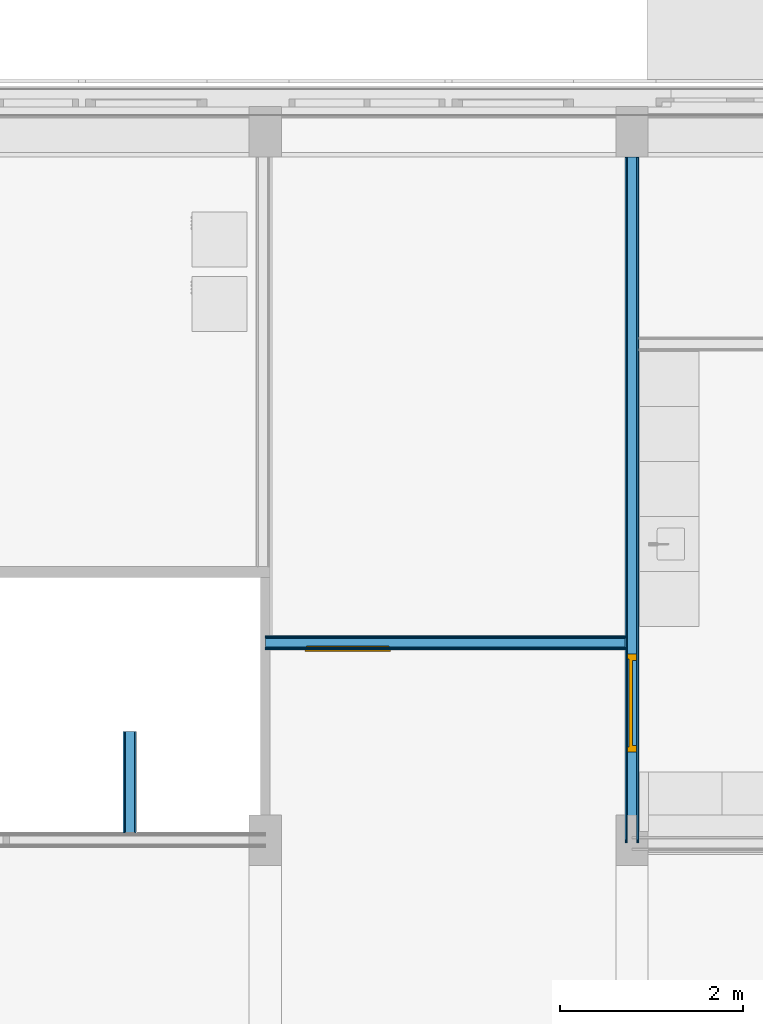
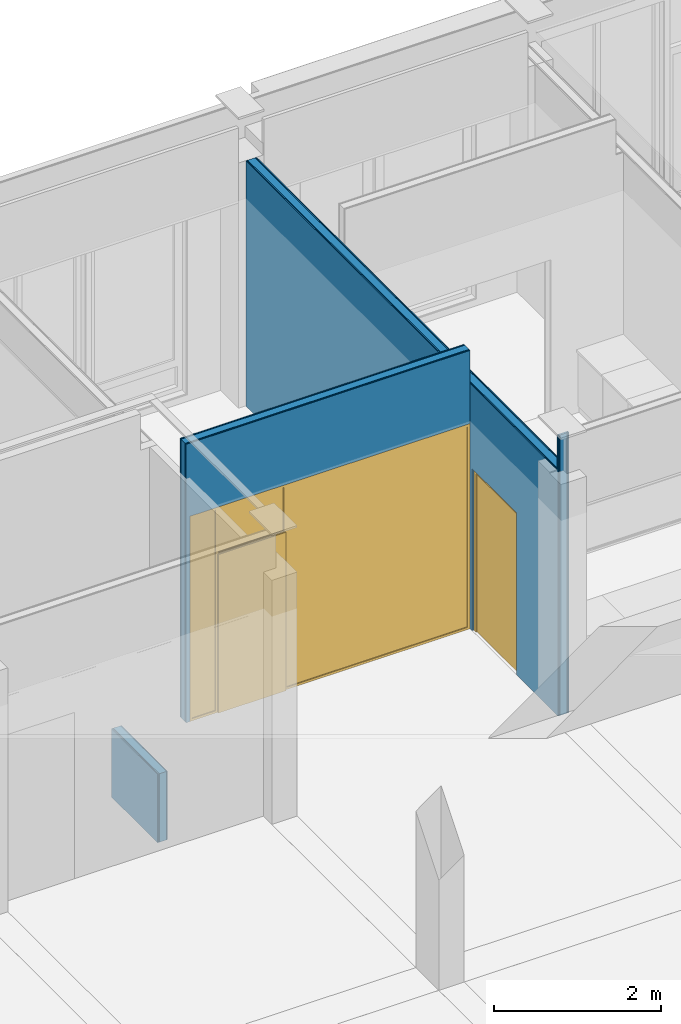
# One storey, part 68 of 109: 14 building element parts, 2 doors, 2 openings, 3 elements without a shape of their own.
"""IFC2X3 building model written with IfcOpenShell, lengths in millimetres."""

from ifc_helpers import new_model, entity, si_unit, converted_unit, derived_unit, money_unit, direction, frame, origin_with_axes, place, context, subcontext, project, spatial, open_shell, faceted_brep, surface_model, material, type_object, element, fill, aggregate, save


model = new_model("IFC2X3")

# Units and contexts
model_context = context("Model", 3, precision=0.01, world=origin_with_axes(), true_north=direction((0.0, 1.0)))
body_context = subcontext(model_context, "Body", "Model", "MODEL_VIEW")
ifc_project = project(units=[si_unit("LENGTHUNIT", "METRE", prefix="MILLI"), si_unit("AREAUNIT", "SQUARE_METRE"), si_unit("VOLUMEUNIT", "CUBIC_METRE"), converted_unit("PLANEANGLEUNIT", "DEGREE", entity("IfcPlaneAngleMeasure", 0.0174532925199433), si_unit("PLANEANGLEUNIT", "RADIAN"), dimensions=[0, 0, 0, 0, 0, 0, 0]), money_unit("EUR"), converted_unit("TIMEUNIT", "Year", entity("IfcTimeMeasure", 31557600.0), si_unit("TIMEUNIT", "SECOND"), dimensions=[0, 0, 1, 0, 0, 0, 0]), si_unit("MASSUNIT", "GRAM", prefix="KILO"), si_unit("THERMODYNAMICTEMPERATUREUNIT", "DEGREE_CELSIUS"), si_unit("LUMINOUSINTENSITYUNIT", "LUMEN"), si_unit("ENERGYUNIT", "JOULE", prefix="MEGA"), derived_unit("THERMALCONDUCTANCEUNIT", [(si_unit("POWERUNIT", "WATT"), 1), (si_unit("LENGTHUNIT", "METRE"), -1), (si_unit("THERMODYNAMICTEMPERATUREUNIT", "KELVIN"), -1)]), derived_unit("SPECIFICHEATCAPACITYUNIT", [(si_unit("ENERGYUNIT", "JOULE"), 1), (si_unit("MASSUNIT", "GRAM", prefix="KILO"), -1), (si_unit("THERMODYNAMICTEMPERATUREUNIT", "KELVIN"), -1)]), derived_unit("MASSDENSITYUNIT", [(si_unit("MASSUNIT", "GRAM", prefix="KILO"), 1), (si_unit("VOLUMEUNIT", "CUBIC_METRE"), -1)])], contexts=[model_context])

# Site, building, storey
site_placement = place(None, origin_with_axes())
site = spatial("IfcSite", under=ifc_project, at=site_placement, Name="<site naam>", CompositionType="ELEMENT")
building_placement = place(site_placement, origin_with_axes())
building = spatial("IfcBuilding", under=site, at=building_placement, Name="<Naam gebouw>", CompositionType="ELEMENT")
storey_placement = place(building_placement, origin_with_axes())
storey = spatial("IfcBuildingStorey", under=building, at=storey_placement, Name="00 Begane grond", CompositionType="ELEMENT", Elevation=0.0)

# Door
door_style_1 = type_object("IfcDoorStyle", Name="D1 27", ConstructionType="NOTDEFINED", OperationType="SINGLE_SWING_RIGHT", ParameterTakesPrecedence=False, Sizeable=False)
wall_1_placement = place(storey_placement, frame((24000.00000000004, 19449.99999999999, 0.0), z_axis=(0.0, 0.0, 1.0), x_axis=(0.0, -1.0, 0.0)))
opening_1_placement = place(wall_1_placement, frame((5953.163190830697, 0.0, 0.0), z_axis=(0.0, 0.0, 1.0), x_axis=(1.0, 0.0, 0.0)))
door_1_placement = place(opening_1_placement, frame((532.0, 0.0, 0.0), z_axis=(0.0, 0.0, 1.0), x_axis=(-1.0, 0.0, 0.0)))
door_1 = element("IfcDoor", 1, at=door_1_placement, inside=storey, type_object=door_style_1, Name="22_BI-A-07_305", ObjectType="DOOR", OverallHeight=2370.0, OverallWidth=1064.0, context=body_context, shape_type="Brep", body=[
    faceted_brep([(67.00000000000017, -5.000000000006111, 0.0), (67.00000000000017, -5.000000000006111, 2303.0), (67.00000000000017, -64.00000000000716, 2303.0), (67.00000000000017, -64.00000000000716, 0.0), (50.00000000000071, -5.000000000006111, 2303.0), (50.00000000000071, -5.000000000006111, 0.0), (50.00000000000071, 49.99999999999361, 2303.0), (0.0, 49.99999999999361, 2303.0), (0.0, -64.00000000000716, 2303.0), (0.0, -64.00000000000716, 0.0), (0.0, 49.99999999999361, 0.0), (50.00000000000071, 49.99999999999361, 0.0)], [[[0, 1, 2, 3]], [[4, 1, 0, 5]], [[4, 6, 7, 8, 2, 1]], [[3, 2, 8, 9]], [[5, 0, 3, 9, 10, 11]], [[6, 4, 5, 11]], [[6, 11, 10, 7]], [[10, 9, 8, 7]]]),
    faceted_brep([(1013.999999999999, -5.000000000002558, 2303.0), (996.9999999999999, -5.000000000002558, 2303.0), (996.9999999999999, -64.00000000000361, 2303.0), (1064.0, -64.00000000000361, 2303.0), (1064.0, 49.99999999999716, 2303.0), (1013.999999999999, 49.99999999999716, 2303.0), (1013.999999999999, -5.000000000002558, 0.0), (996.9999999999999, -5.000000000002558, 0.0), (996.9999999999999, -64.00000000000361, 0.0), (1064.0, -64.00000000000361, 0.0), (1064.0, 49.99999999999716, 0.0), (1013.999999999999, 49.99999999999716, 0.0)], [[[0, 1, 2, 3, 4, 5]], [[1, 0, 6, 7]], [[1, 7, 8, 2]], [[3, 2, 8, 9]], [[4, 3, 9, 10]], [[11, 5, 4, 10]], [[0, 5, 11, 6]], [[6, 11, 10, 9, 8, 7]]]),
    faceted_brep([(50.00000000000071, 49.99999999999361, 2320.0), (50.00000000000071, 49.99999999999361, 2303.0), (0.0, 49.99999999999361, 2303.0), (0.0, 49.99999999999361, 2370.0), (1064.0, 49.99999999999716, 2370.0), (1064.0, 49.99999999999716, 2303.0), (1013.999999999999, 49.99999999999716, 2303.0), (1013.999999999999, 49.99999999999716, 2320.0), (50.00000000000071, -5.000000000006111, 2320.0), (50.00000000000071, -5.000000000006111, 2303.0), (67.00000000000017, -5.000000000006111, 2303.0), (67.00000000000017, -64.00000000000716, 2303.0), (0.0, -64.00000000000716, 2303.0), (0.0, -64.00000000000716, 2370.0), (1064.0, -64.00000000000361, 2370.0), (1064.0, -64.00000000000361, 2303.0), (1013.999999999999, -5.000000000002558, 2303.0), (996.9999999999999, -64.00000000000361, 2303.0), (996.9999999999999, -5.000000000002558, 2303.0), (1013.999999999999, -5.000000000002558, 2320.0)], [[[0, 1, 2, 3, 4, 5, 6, 7]], [[1, 0, 8, 9]], [[9, 10, 11, 12, 2, 1]], [[2, 12, 13, 3]], [[3, 13, 14, 4]], [[4, 14, 15, 5]], [[16, 6, 5, 15, 17, 18]], [[7, 6, 16, 19]], [[0, 7, 19, 8]], [[16, 18, 10, 9, 8, 19]], [[10, 18, 17, 11]], [[17, 15, 14, 13, 12, 11]]]),
    faceted_brep([(1013.999999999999, 34.99999999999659, 0.0), (1013.999999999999, -5.000000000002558, 0.0), (50.00000000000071, -5.000000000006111, 0.0), (50.00000000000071, 34.99999999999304, 0.0), (1013.999999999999, 34.99999999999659, 2320.0), (1013.999999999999, -5.000000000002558, 2320.0), (50.00000000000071, -5.000000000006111, 2320.0), (50.00000000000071, 34.99999999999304, 2320.0)], [[[0, 1, 2, 3]], [[4, 5, 1, 0]], [[1, 5, 6, 2]], [[3, 2, 6, 7]], [[0, 3, 7, 4]], [[7, 6, 5, 4]]]),
])

door_style_2 = type_object("IfcDoorStyle", Name="D1 bl zl2 27", ConstructionType="NOTDEFINED", OperationType="USERDEFINED", ParameterTakesPrecedence=False, Sizeable=False)
wall_2_placement = place(storey_placement, frame((20000.00024495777, 14153.80360676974, 0.0), z_axis=(0.0, 0.0, 1.0), x_axis=(1.0, 0.0, 0.0)))
opening_2_placement = place(wall_2_placement, frame((1987.499755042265, 0.0, 0.0), z_axis=(0.0, 0.0, 1.0), x_axis=(1.0, 0.0, 0.0)))
door_2_placement = place(opening_2_placement, frame((1937.5, 0.0, 0.0), z_axis=(0.0, 0.0, 1.0), x_axis=(-1.0, 0.0, 0.0)))
door_2 = element("IfcDoor", 2, at=door_2_placement, inside=storey, type_object=door_style_2, Name="22_BI-F-08_305", ObjectType="DOOR", OverallHeight=3000.0, OverallWidth=3875.0, context=body_context, shape_type="SurfaceModel", body=[
    faceted_brep([(2558.0, 34.99999999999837, 0.0), (2558.0, 34.99999999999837, 12.0), (2574.999999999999, 34.99999999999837, 12.0), (2574.999999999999, 34.99999999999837, 0.0), (3491.999999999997, 34.99999999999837, 0.0), (3491.999999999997, 34.99999999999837, 12.0), (3474.999999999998, 34.99999999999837, 12.0), (3474.999999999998, 54.99999999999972, 12.0), (2574.999999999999, 54.99999999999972, 12.0), (2574.999999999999, 54.99999999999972, 0.0), (3474.999999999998, 54.99999999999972, 0.0), (3474.999999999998, 34.99999999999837, 0.0)], [[[0, 1, 2, 3]], [[4, 5, 1, 0]], [[1, 5, 6, 7, 8, 2]], [[3, 2, 8, 9]], [[0, 3, 9, 10, 11, 4]], [[11, 6, 5, 4]], [[10, 7, 6, 11]], [[9, 8, 7, 10]]]),
    faceted_brep([(0.0, 74.99999999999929, 0.0), (33.00000000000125, 74.99999999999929, 0.0), (33.00000000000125, 54.99999999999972, 0.0), (0.0, 54.99999999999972, 0.0), (0.0, 74.99999999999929, 2967.0), (33.00000000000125, 74.99999999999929, 2967.0), (33.00000000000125, 74.99999999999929, 33.0), (33.00000000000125, 54.99999999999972, 33.0), (33.00000000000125, 54.99999999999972, 2967.0), (0.0, 54.99999999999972, 2967.0)], [[[0, 1, 2, 3]], [[0, 4, 5, 6, 1]], [[1, 6, 7, 2]], [[3, 2, 7, 8, 9]], [[4, 0, 3, 9]], [[5, 4, 9, 8]], [[6, 5, 8, 7]]]),
    faceted_brep([(2558.0, 54.99999999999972, 0.0), (2558.0, 54.99999999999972, 2317.0), (2574.999999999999, 54.99999999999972, 2317.0), (2574.999999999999, 54.99999999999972, 2333.0), (2574.999999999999, 54.99999999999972, 2967.0), (2532.999999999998, 54.99999999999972, 2967.0), (2532.999999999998, 54.99999999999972, 32.99999999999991), (2532.999999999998, 54.99999999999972, 0.0), (2558.0, 74.99999999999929, 0.0), (2558.0, 74.99999999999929, 2317.0), (2574.999999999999, 74.99999999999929, 2317.0), (2574.999999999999, 74.99999999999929, 2333.0), (2574.999999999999, 74.99999999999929, 2967.0), (2532.999999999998, 74.99999999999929, 2967.0), (2532.999999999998, 74.99999999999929, 32.99999999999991), (2532.999999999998, 74.99999999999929, 0.0)], [[[0, 1, 2, 3, 4, 5, 6, 7]], [[1, 0, 8, 9]], [[10, 2, 1, 9]], [[2, 10, 11, 3]], [[12, 4, 3, 11]], [[13, 5, 4, 12]], [[14, 6, 5, 13]], [[15, 7, 6, 14]], [[8, 0, 7, 15]], [[9, 8, 15, 14, 13, 12, 11, 10]]]),
    faceted_brep([(33.00000000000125, 74.99999999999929, 33.0), (33.00000000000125, 74.99999999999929, 0.0), (33.00000000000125, 54.99999999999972, 0.0), (33.00000000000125, 54.99999999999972, 33.0), (2532.999999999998, 74.99999999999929, 33.0), (2532.999999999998, 74.99999999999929, 0.0), (2532.999999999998, 54.99999999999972, 0.0), (2532.999999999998, 54.99999999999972, 33.0)], [[[0, 1, 2, 3]], [[0, 4, 5, 1]], [[1, 5, 6, 2]], [[3, 2, 6, 7]], [[4, 0, 3, 7]], [[5, 4, 7, 6]]]),
    faceted_brep([(3875.0, 74.99999999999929, 0.0), (3875.0, 74.99999999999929, 2967.0), (3875.0, 54.99999999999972, 2967.0), (3875.0, 54.99999999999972, 0.0), (3841.999999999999, 74.99999999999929, 0.0), (3841.999999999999, 74.99999999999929, 33.0), (3841.999999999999, 74.99999999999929, 2967.0), (3841.999999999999, 54.99999999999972, 2967.0), (3841.999999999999, 54.99999999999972, 33.0), (3841.999999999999, 54.99999999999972, 0.0)], [[[0, 1, 2, 3]], [[0, 4, 5, 6, 1]], [[1, 6, 7, 2]], [[3, 2, 7, 8, 9]], [[4, 0, 3, 9]], [[5, 4, 9, 8]], [[6, 5, 8, 7]]]),
    faceted_brep([(3491.999999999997, 54.99999999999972, 2317.0), (3491.999999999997, 54.99999999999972, 0.0), (3517.0, 54.99999999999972, 0.0), (3517.0, 54.99999999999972, 32.99999999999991), (3517.0, 54.99999999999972, 2967.0), (3474.999999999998, 54.99999999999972, 2967.0), (3474.999999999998, 54.99999999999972, 2333.0), (3474.999999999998, 54.99999999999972, 2317.0), (3491.999999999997, 74.99999999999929, 2317.0), (3491.999999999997, 74.99999999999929, 0.0), (3517.0, 74.99999999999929, 0.0), (3517.0, 74.99999999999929, 32.99999999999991), (3517.0, 74.99999999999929, 2967.0), (3474.999999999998, 74.99999999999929, 2967.0), (3474.999999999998, 74.99999999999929, 2333.0), (3474.999999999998, 74.99999999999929, 2317.0)], [[[0, 1, 2, 3, 4, 5, 6, 7]], [[1, 0, 8, 9]], [[1, 9, 10, 2]], [[11, 3, 2, 10]], [[12, 4, 3, 11]], [[13, 5, 4, 12]], [[14, 6, 5, 13]], [[15, 7, 6, 14]], [[0, 7, 15, 8]], [[8, 15, 14, 13, 12, 11, 10, 9]]]),
    faceted_brep([(3517.0, 74.99999999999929, 33.0), (3517.0, 74.99999999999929, 0.0), (3517.0, 54.99999999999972, 0.0), (3517.0, 54.99999999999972, 33.0), (3841.999999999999, 74.99999999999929, 33.0), (3841.999999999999, 74.99999999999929, 0.0), (3841.999999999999, 54.99999999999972, 0.0), (3841.999999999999, 54.99999999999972, 33.0)], [[[0, 1, 2, 3]], [[0, 4, 5, 1]], [[1, 5, 6, 2]], [[3, 2, 6, 7]], [[4, 0, 3, 7]], [[5, 4, 7, 6]]]),
    faceted_brep([(0.0, 74.99999999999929, 3000.0), (0.0, 74.99999999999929, 2967.0), (0.0, 54.99999999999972, 2967.0), (0.0, 54.99999999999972, 3000.0), (3875.0, 74.99999999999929, 3000.0), (3875.0, 74.99999999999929, 2967.0), (3841.999999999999, 74.99999999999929, 2967.0), (3517.0, 74.99999999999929, 2967.0), (3474.999999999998, 74.99999999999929, 2967.0), (2574.999999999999, 74.99999999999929, 2967.0), (2532.999999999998, 74.99999999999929, 2967.0), (33.00000000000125, 74.99999999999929, 2967.0), (33.00000000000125, 54.99999999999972, 2967.0), (2532.999999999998, 54.99999999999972, 2967.0), (2574.999999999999, 54.99999999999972, 2967.0), (3474.999999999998, 54.99999999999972, 2967.0), (3517.0, 54.99999999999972, 2967.0), (3841.999999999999, 54.99999999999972, 2967.0), (3875.0, 54.99999999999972, 2967.0), (3875.0, 54.99999999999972, 3000.0)], [[[0, 1, 2, 3]], [[0, 4, 5, 6, 7, 8, 9, 10, 11, 1]], [[1, 11, 12, 2]], [[3, 2, 12, 13, 14, 15, 16, 17, 18, 19]], [[4, 0, 3, 19]], [[5, 4, 19, 18]], [[6, 5, 18, 17]], [[7, 6, 17, 16]], [[8, 7, 16, 15]], [[9, 8, 15, 14]], [[10, 9, 14, 13]], [[11, 10, 13, 12]]]),
    faceted_brep([(2574.999999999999, 54.99999999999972, 2317.0), (3474.999999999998, 54.99999999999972, 2317.0), (3474.999999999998, 54.99999999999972, 2333.0), (2574.999999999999, 54.99999999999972, 2333.0), (3474.999999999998, 74.99999999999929, 2317.0), (2574.999999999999, 74.99999999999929, 2317.0), (3474.999999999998, 74.99999999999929, 2333.0), (2574.999999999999, 74.99999999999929, 2333.0)], [[[0, 1, 2, 3]], [[4, 1, 0, 5]], [[1, 4, 6, 2]], [[7, 3, 2, 6]], [[5, 0, 3, 7]], [[4, 5, 7, 6]]]),
    faceted_brep([(3491.999999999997, 92.99999999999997, 0.0), (3491.999999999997, 52.99999999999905, 0.0), (2558.0, 52.99999999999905, 0.0), (2558.0, 92.99999999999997, 0.0), (3491.999999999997, 92.9999999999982, 2317.0), (3491.999999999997, 52.99999999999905, 2317.0), (2558.0, 52.99999999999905, 2317.0), (2558.0, 92.9999999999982, 2317.0)], [[[0, 1, 2, 3]], [[4, 5, 1, 0]], [[1, 5, 6, 2]], [[3, 2, 6, 7]], [[0, 3, 7, 4]], [[7, 6, 5, 4]]]),
    surface_model("IfcShellBasedSurfaceModel", [(2574.999999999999, 48.99999999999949, 2333.0), (3474.999999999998, 48.99999999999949, 2333.0), (3474.999999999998, 48.99999999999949, 2967.0), (2574.999999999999, 48.99999999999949, 2967.0)], [open_shell([[[0, 1, 2, 3]]])]),
    surface_model("IfcShellBasedSurfaceModel", [(2574.999999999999, 60.99999999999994, 2333.0), (2574.999999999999, 60.99999999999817, 2967.0), (3474.999999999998, 60.99999999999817, 2967.0), (3474.999999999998, 60.99999999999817, 2333.0)], [open_shell([[[0, 1, 2, 3]]])]),
    surface_model("IfcShellBasedSurfaceModel", [(33.00000000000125, 48.99999999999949, 33.0), (2532.999999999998, 48.99999999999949, 33.0), (2532.999999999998, 48.99999999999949, 2967.0), (33.00000000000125, 48.99999999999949, 2967.0)], [open_shell([[[0, 1, 2, 3]]])]),
    surface_model("IfcShellBasedSurfaceModel", [(33.00000000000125, 60.99999999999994, 33.0), (33.00000000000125, 60.99999999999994, 2967.0), (2532.999999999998, 60.99999999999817, 2967.0), (2532.999999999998, 60.99999999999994, 33.0)], [open_shell([[[0, 1, 2, 3]]])]),
    surface_model("IfcShellBasedSurfaceModel", [(3517.0, 48.99999999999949, 33.0), (3841.999999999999, 48.99999999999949, 33.0), (3841.999999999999, 48.99999999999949, 2967.0), (3517.0, 48.99999999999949, 2967.0)], [open_shell([[[0, 1, 2, 3]]])]),
    surface_model("IfcShellBasedSurfaceModel", [(3517.0, 60.99999999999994, 33.0), (3517.0, 60.99999999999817, 2967.0), (3841.999999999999, 60.99999999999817, 2967.0), (3841.999999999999, 60.99999999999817, 33.0)], [open_shell([[[0, 1, 2, 3]]])]),
])

# Wall, opening
wall_type = type_object("IfcWallType", Name="MS-01 GF 150 ECO DGS/2.100.2.A 150", PredefinedType="NOTDEFINED")
wall_1 = element("IfcWall", 3, at=wall_1_placement, inside=storey, type_object=wall_type, Name="22_Binnenwand_MS-01")
opening_1 = element("IfcOpeningElement", 4, at=opening_1_placement, cuts=wall_1, Name="22_BI-A-07_305", context=body_context, shape_type="Brep", body=[
    faceted_brep([(532.0, -49.99999999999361, 2370.0), (-532.0, -49.99999999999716, 2370.0), (-532.0, -76.00000000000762, 2370.0), (532.0, -76.00000000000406, 2370.0), (532.0, 76.00000000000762, 2370.0), (-532.0, 76.00000000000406, 2370.0), (-532.0, -49.99999999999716, 0.0), (-532.0, -76.00000000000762, 0.0), (532.0, -76.00000000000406, 0.0), (532.0, -49.99999999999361, 0.0), (532.0, 76.00000000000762, 0.0), (-532.0, 76.00000000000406, 0.0)], [[[0, 1, 2, 3]], [[1, 0, 4, 5]], [[1, 6, 7, 2]], [[2, 7, 8, 3]], [[9, 0, 3, 8]], [[0, 9, 10, 4]], [[4, 10, 11, 5]], [[6, 1, 5, 11]], [[6, 9, 8, 7]], [[9, 6, 11, 10]]]),
])

fill(opening_1, door_1)

# Building element part
ifc_material_1 = material(Name="gipsplaat")
building_element_part_1_placement = place(wall_1_placement, origin_with_axes())
building_element_part_1 = element("IfcBuildingElementPart", 5, at=building_element_part_1_placement, material=ifc_material_1, Name="gipsplaat", context=body_context, shape_type="Brep", body=[
    faceted_brep([(0.0, 50.00000000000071, 3585.000000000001), (0.0, 62.5, 3585.000000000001), (0.0, 62.5, 0.0), (0.0, 50.00000000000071, 0.0), (7449.999999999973, 62.50000000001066, 3585.000000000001), (7449.999999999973, 50.00000000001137, 3585.000000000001), (7449.999999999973, 62.50000000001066, 4100.000000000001), (7478.383184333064, 62.50000000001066, 4100.000000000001), (7478.383184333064, 62.50000000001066, 0.0), (7174.999999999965, 62.50000000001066, 0.0), (7174.999999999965, 62.50000000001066, 3.000000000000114), (5421.163192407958, 62.50000000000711, 3.000000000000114), (5421.163192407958, 62.50000000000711, 0.0), (5421.163192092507, 50.00000000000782, 0.0), (5421.163192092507, 50.00000000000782, 3.000000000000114), (7174.999999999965, 50.00000000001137, 3.000000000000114), (7174.999999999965, 50.00000000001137, 0.0), (7478.383184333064, 50.00000000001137, 0.0), (7478.383184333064, 50.00000000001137, 4100.000000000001), (7449.999999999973, 50.00000000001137, 4100.000000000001)], [[[0, 1, 2, 3]], [[4, 1, 0, 5]], [[4, 6, 7, 8, 9, 10, 11, 12, 2, 1]], [[3, 2, 12, 13]], [[5, 0, 3, 13, 14, 15, 16, 17, 18, 19]], [[19, 6, 4, 5]], [[6, 19, 18, 7]], [[8, 7, 18, 17]], [[8, 17, 16, 9]], [[16, 15, 10, 9]], [[15, 14, 11, 10]], [[14, 13, 12, 11]]]),
])

ifc_material_2 = material(Name="isolatie_steenwol LSW")
building_element_part_2_placement = place(wall_1_placement, origin_with_axes())
building_element_part_2 = element("IfcBuildingElementPart", 6, at=building_element_part_2_placement, material=ifc_material_2, Name="isolatie_steenwol LSW", context=body_context, shape_type="Brep", body=[
    faceted_brep([(0.0, -50.00000000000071, 3585.000000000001), (0.0, 50.00000000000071, 3585.000000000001), (0.0, 50.00000000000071, 0.0), (0.0, -50.00000000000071, 0.0), (7449.999999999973, 50.00000000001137, 3585.000000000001), (7449.999999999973, -49.99999999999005, 3585.000000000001), (7449.999999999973, 50.00000000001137, 4100.000000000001), (7478.383184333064, 50.00000000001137, 4100.000000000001), (7478.383184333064, 50.00000000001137, 0.0), (7174.999999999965, 50.00000000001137, 0.0), (7174.999999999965, 50.00000000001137, 3.000000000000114), (5421.163192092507, 50.00000000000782, 3.000000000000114), (5421.163192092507, 50.00000000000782, 0.0), (5421.163189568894, -49.99999999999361, 0.0), (5421.163189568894, -49.99999999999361, 3.000000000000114), (7174.999999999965, -49.99999999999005, 3.000000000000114), (7174.999999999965, -49.99999999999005, 0.0), (7478.383184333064, -49.99999999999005, 0.0), (7478.383184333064, -49.99999999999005, 4100.000000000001), (7449.999999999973, -49.99999999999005, 4100.000000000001)], [[[0, 1, 2, 3]], [[4, 1, 0, 5]], [[4, 6, 7, 8, 9, 10, 11, 12, 2, 1]], [[3, 2, 12, 13]], [[5, 0, 3, 13, 14, 15, 16, 17, 18, 19]], [[19, 6, 4, 5]], [[6, 19, 18, 7]], [[8, 7, 18, 17]], [[8, 17, 16, 9]], [[16, 15, 10, 9]], [[15, 14, 11, 10]], [[14, 13, 12, 11]]]),
])

building_element_part_3_placement = place(wall_1_placement, origin_with_axes())
building_element_part_3 = element("IfcBuildingElementPart", 7, at=building_element_part_3_placement, material=ifc_material_1, Name="gipsplaat", context=body_context, shape_type="Brep", body=[
    faceted_brep([(0.0, -62.5, 3585.000000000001), (0.0, -50.00000000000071, 3585.000000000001), (0.0, -50.00000000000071, 0.0), (0.0, -62.5, 0.0), (7449.999999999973, -49.99999999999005, 3585.000000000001), (7449.999999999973, -62.49999999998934, 3585.000000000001), (7449.999999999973, -49.99999999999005, 4100.000000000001), (7478.383184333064, -49.99999999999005, 4100.000000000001), (7478.383184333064, -49.99999999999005, 0.0), (7174.999999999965, -49.99999999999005, 0.0), (7174.999999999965, -49.99999999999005, 3.000000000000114), (5421.163189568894, -49.99999999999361, 3.000000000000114), (5421.163189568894, -49.99999999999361, 0.0), (5421.163189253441, -62.49999999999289, 0.0), (5421.163189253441, -62.49999999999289, 3.000000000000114), (7174.999999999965, -62.49999999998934, 3.000000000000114), (7174.999999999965, -62.49999999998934, 0.0), (7478.383184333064, -62.49999999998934, 0.0), (7478.383184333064, -62.49999999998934, 4100.000000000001), (7449.999999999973, -62.49999999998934, 4100.000000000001)], [[[0, 1, 2, 3]], [[4, 1, 0, 5]], [[4, 6, 7, 8, 9, 10, 11, 12, 2, 1]], [[3, 2, 12, 13]], [[5, 0, 3, 13, 14, 15, 16, 17, 18, 19]], [[19, 6, 4, 5]], [[6, 19, 18, 7]], [[8, 7, 18, 17]], [[8, 17, 16, 9]], [[16, 15, 10, 9]], [[15, 14, 11, 10]], [[14, 13, 12, 11]]]),
])

building_element_part_4_placement = place(wall_1_placement, origin_with_axes())
building_element_part_4 = element("IfcBuildingElementPart", 8, at=building_element_part_4_placement, material=ifc_material_1, Name="gipsplaat", context=body_context, shape_type="Brep", body=[
    faceted_brep([(0.0, -74.99999999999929, 3585.000000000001), (0.0, -62.5, 3585.000000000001), (0.0, -62.5, 0.0), (0.0, -74.99999999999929, 0.0), (7449.999999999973, -62.49999999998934, 3585.000000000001), (7449.999999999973, -74.99999999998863, 3585.000000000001), (7449.999999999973, -62.49999999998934, 4100.000000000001), (7478.383184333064, -62.49999999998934, 4100.000000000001), (7478.383184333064, -62.49999999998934, 0.0), (7174.999999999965, -62.49999999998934, 0.0), (7174.999999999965, -62.49999999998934, 3.000000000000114), (5421.163189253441, -62.49999999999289, 3.000000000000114), (5421.163189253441, -62.49999999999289, 0.0), (5421.163188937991, -74.9999895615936, 0.0), (5421.163188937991, -74.9999895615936, 3.000000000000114), (7174.999999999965, -75.00003382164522, 3.000000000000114), (7174.999999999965, -75.00003382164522, 0.0), (7478.383184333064, -74.99999999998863, 0.0), (7478.383184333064, -74.99999999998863, 4100.000000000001), (7449.999999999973, -74.99999999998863, 4100.000000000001)], [[[0, 1, 2, 3]], [[4, 1, 0, 5]], [[4, 6, 7, 8, 9, 10, 11, 12, 2, 1]], [[3, 2, 12, 13]], [[5, 0, 3, 13, 14, 15, 16, 17, 18, 19]], [[19, 6, 4, 5]], [[6, 19, 18, 7]], [[8, 7, 18, 17]], [[8, 17, 16, 9]], [[16, 15, 10, 9]], [[15, 14, 11, 10]], [[14, 13, 12, 11]]]),
])

building_element_part_5_placement = place(wall_1_placement, origin_with_axes())
building_element_part_5 = element("IfcBuildingElementPart", 9, at=building_element_part_5_placement, material=ifc_material_1, Name="gipsplaat", context=body_context, shape_type="Brep", body=[
    faceted_brep([(0.0, 62.5, 3585.000000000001), (0.0, 74.99999999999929, 3585.000000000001), (0.0, 74.99999999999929, 0.0), (0.0, 62.5, 0.0), (7449.999999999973, 75.00000000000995, 3585.000000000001), (7449.999999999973, 62.50000000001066, 3585.000000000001), (7449.999999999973, 75.00000000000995, 4100.000000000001), (7478.383184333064, 75.00000000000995, 4100.000000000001), (7478.383184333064, 75.00000000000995, 0.0), (7174.999999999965, 75.00000000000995, 0.0), (7174.999999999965, 75.00000000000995, 3.000000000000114), (5421.16319272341, 75.0000000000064, 3.000000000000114), (5421.16319272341, 75.0000000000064, 0.0), (5421.163192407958, 62.50000000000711, 0.0), (5421.163192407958, 62.50000000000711, 3.000000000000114), (7174.999999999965, 62.50000000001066, 3.000000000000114), (7174.999999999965, 62.50000000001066, 0.0), (7478.383184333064, 62.50000000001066, 0.0), (7478.383184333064, 62.50000000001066, 4100.000000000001), (7449.999999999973, 62.50000000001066, 4100.000000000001)], [[[0, 1, 2, 3]], [[4, 1, 0, 5]], [[4, 6, 7, 8, 9, 10, 11, 12, 2, 1]], [[3, 2, 12, 13]], [[5, 0, 3, 13, 14, 15, 16, 17, 18, 19]], [[19, 6, 4, 5]], [[6, 19, 18, 7]], [[8, 7, 18, 17]], [[8, 17, 16, 9]], [[16, 15, 10, 9]], [[15, 14, 11, 10]], [[14, 13, 12, 11]]]),
])

aggregate(wall_1, [building_element_part_1, building_element_part_2, building_element_part_3, building_element_part_4, building_element_part_5])

# Wall, opening
wall_2 = element("IfcWall", 10, at=wall_2_placement, inside=storey, type_object=wall_type, Name="22_Binnenwand_MS-01")
opening_2 = element("IfcOpeningElement", 11, at=opening_2_placement, cuts=wall_2, Name="22_BI-F-08_305", context=body_context, shape_type="Brep", body=[
    faceted_brep([(1937.5, 75.99999999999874, 3000.0), (1937.5, 75.99999999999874, 0.0), (-1937.5, 75.99999999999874, 0.0), (-1937.5, 75.99999999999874, 3000.0), (1937.5, -75.99999999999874, 3000.0), (1937.5, -75.99999999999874, 0.0), (-1937.5, -75.99999999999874, 0.0), (-1937.5, -75.99999999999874, 3000.0)], [[[0, 1, 2, 3]], [[4, 5, 1, 0]], [[5, 6, 2, 1]], [[6, 7, 3, 2]], [[7, 4, 0, 3]], [[6, 5, 4, 7]]]),
])

fill(opening_2, door_2)

# Building element part
building_element_part_6_placement = place(wall_2_placement, origin_with_axes())
building_element_part_6 = element("IfcBuildingElementPart", 12, at=building_element_part_6_placement, material=ifc_material_1, Name="gipsplaat", context=body_context, shape_type="Brep", body=[
    faceted_brep([(3924.999648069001, 62.5, 3.000000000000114), (3924.999648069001, 75.00000000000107, 3.000000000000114), (3924.999746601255, 75.00000000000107, 3000.0), (3924.999746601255, 62.5, 3000.0), (49.88944081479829, 75.00000000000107, 3.000000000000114), (49.88944081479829, 62.5, 3.000000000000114), (49.88944081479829, 74.99999999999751, 0.0), (0.0, 74.99999999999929, 0.0), (0.0, 75.00000000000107, 4070.0), (3924.999755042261, 75.00000000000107, 4070.0), (3924.999746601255, 75.00000000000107, 3040.0), (74.99964882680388, 75.00000000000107, 3040.0), (74.99964882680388, 75.00000000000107, 3000.0), (74.99964882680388, 62.5, 3000.0), (74.99964882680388, 62.5, 3040.0), (3924.999746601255, 62.5, 3040.0), (3924.999755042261, 62.5, 4070.0), (0.0, 62.5, 4070.0), (0.0, 62.5, 0.0), (49.88944081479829, 62.5, 0.0)], [[[0, 1, 2, 3]], [[4, 1, 0, 5]], [[4, 6, 7, 8, 9, 10, 11, 12, 2, 1]], [[3, 2, 12, 13]], [[5, 0, 3, 13, 14, 15, 16, 17, 18, 19]], [[6, 4, 5, 19]], [[6, 19, 18, 7]], [[18, 17, 8, 7]], [[16, 9, 8, 17]], [[15, 10, 9, 16]], [[11, 10, 15, 14]], [[12, 11, 14, 13]]]),
])

building_element_part_7_placement = place(wall_2_placement, origin_with_axes())
building_element_part_7 = element("IfcBuildingElementPart", 13, at=building_element_part_7_placement, material=ifc_material_1, Name="gipsplaat", context=body_context, shape_type="Brep", body=[
    faceted_brep([(3924.999648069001, 50.00000000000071, 3.000000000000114), (3924.999648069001, 62.5, 3.000000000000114), (3924.999755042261, 62.5, 4070.0), (3924.999755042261, 50.00000000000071, 4070.0), (49.88944081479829, 62.5, 3.000000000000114), (49.88944081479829, 50.00000000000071, 3.000000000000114), (49.88944081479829, 62.5, 0.0), (0.0, 62.5, 0.0), (0.0, 62.5, 4070.0), (0.0, 50.00000000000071, 4070.0), (0.0, 50.00000000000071, 0.0), (49.88944081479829, 50.00000000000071, 0.0)], [[[0, 1, 2, 3]], [[4, 1, 0, 5]], [[4, 6, 7, 8, 2, 1]], [[3, 2, 8, 9]], [[5, 0, 3, 9, 10, 11]], [[6, 4, 5, 11]], [[6, 11, 10, 7]], [[10, 9, 8, 7]]]),
])

building_element_part_8_placement = place(wall_2_placement, origin_with_axes())
building_element_part_8 = element("IfcBuildingElementPart", 14, at=building_element_part_8_placement, material=ifc_material_1, Name="gipsplaat", context=body_context, shape_type="Brep", body=[
    faceted_brep([(3924.999648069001, -62.5, 3.000000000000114), (3924.999648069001, -49.99999999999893, 3.000000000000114), (3924.999755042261, -49.99999999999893, 4070.0), (3924.999755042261, -62.5, 4070.0), (49.88944081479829, -49.99999999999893, 3.000000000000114), (49.88944081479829, -62.5, 3.000000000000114), (49.88944081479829, -50.00000000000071, 0.0), (0.0, -50.00000000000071, 0.0), (0.0, -49.99999999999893, 4070.0), (0.0, -62.5, 4070.0), (0.0, -62.5, 0.0), (49.88944081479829, -62.50000000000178, 0.0)], [[[0, 1, 2, 3]], [[4, 1, 0, 5]], [[4, 6, 7, 8, 2, 1]], [[3, 2, 8, 9]], [[5, 0, 3, 9, 10, 11]], [[6, 4, 5, 11]], [[6, 11, 10, 7]], [[10, 9, 8, 7]]]),
])

building_element_part_9_placement = place(wall_2_placement, origin_with_axes())
building_element_part_9 = element("IfcBuildingElementPart", 15, at=building_element_part_9_placement, material=ifc_material_1, Name="gipsplaat", context=body_context, shape_type="Brep", body=[
    faceted_brep([(3924.999648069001, -74.99999999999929, 3.000000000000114), (3924.999648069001, -62.5, 3.000000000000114), (3924.999755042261, -62.5, 4070.0), (3924.999755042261, -74.99999999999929, 4070.0), (49.88944081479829, -62.5, 3.000000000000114), (49.88944081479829, -74.99999999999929, 3.000000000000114), (49.88944081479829, -62.5, 0.0), (0.0, -62.5, 0.0), (0.0, -62.5, 4070.0), (0.0, -74.99999999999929, 4070.0), (0.0, -74.99999999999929, 0.0), (49.88944081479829, -75.00000000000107, 0.0)], [[[0, 1, 2, 3]], [[4, 1, 0, 5]], [[4, 6, 7, 8, 2, 1]], [[3, 2, 8, 9]], [[5, 0, 3, 9, 10, 11]], [[6, 4, 5, 11]], [[6, 11, 10, 7]], [[10, 9, 8, 7]]]),
])

building_element_part_10_placement = place(wall_2_placement, origin_with_axes())
building_element_part_10 = element("IfcBuildingElementPart", 16, at=building_element_part_10_placement, material=ifc_material_2, Name="isolatie_steenwol LSW", context=body_context, shape_type="Brep", body=[
    faceted_brep([(3924.999648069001, -49.99999999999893, 3.000000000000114), (3924.999648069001, 50.00000000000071, 3.000000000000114), (3924.999755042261, 50.00000000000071, 4070.0), (3924.999755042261, -49.99999999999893, 4070.0), (49.88944081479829, 50.00000000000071, 3.000000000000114), (49.88944081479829, -49.99999999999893, 3.000000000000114), (49.88944081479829, 50.00000000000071, 0.0), (0.0, 50.00000000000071, 0.0), (0.0, 50.00000000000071, 4070.0), (0.0, -49.99999999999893, 4070.0), (0.0, -50.00000000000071, 0.0), (49.88944081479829, -50.00000000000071, 0.0)], [[[0, 1, 2, 3]], [[4, 1, 0, 5]], [[4, 6, 7, 8, 2, 1]], [[3, 2, 8, 9]], [[5, 0, 3, 9, 10, 11]], [[6, 4, 5, 11]], [[6, 11, 10, 7]], [[10, 9, 8, 7]]]),
])

aggregate(wall_2, [building_element_part_6, building_element_part_7, building_element_part_8, building_element_part_9, building_element_part_10])

# Wall, building element parts
wall_3_placement = place(storey_placement, frame((18600.1285195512, 13183.47801856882, 0.0), z_axis=(0.0, 0.0, 1.0), x_axis=(0.0, -1.0, 0.0)))
wall_3 = element("IfcWall", 17, at=wall_3_placement, inside=storey, type_object=wall_type, Name="22_Binnenwand_MS-01")
building_element_part_11_placement = place(wall_3_placement, origin_with_axes())
building_element_part_11 = element("IfcBuildingElementPart", 18, at=building_element_part_11_placement, material=ifc_material_2, Name="isolatie_steenwol LSW", context=body_context, shape_type="Brep", body=[
    faceted_brep([(1103.728291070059, -125.0, 1000.0), (1103.728291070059, -24.99999999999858, 1000.0), (0.0, -24.99999999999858, 1000.0), (0.0, -125.0, 1000.0), (1103.728291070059, -125.0, 0.0), (1103.728291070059, -24.99999999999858, 0.0), (0.0, -24.99999999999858, 0.0), (0.0, -125.0, 0.0)], [[[0, 1, 2, 3]], [[0, 4, 5, 1]], [[1, 5, 6, 2]], [[3, 2, 6, 7]], [[4, 0, 3, 7]], [[5, 4, 7, 6]]]),
])
building_element_part_12_placement = place(wall_3_placement, origin_with_axes())
building_element_part_12 = element("IfcBuildingElementPart", 19, at=building_element_part_12_placement, material=ifc_material_1, Name="gipsplaat", context=body_context, shape_type="Brep", body=[
    faceted_brep([(1103.728291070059, -24.99999999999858, 1000.0), (1103.728291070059, -12.49999999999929, 1000.0), (0.0, -12.49999999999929, 1000.0), (0.0, -24.99999999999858, 1000.0), (1103.728291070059, -24.99999999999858, 0.0), (1103.728291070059, -12.49999999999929, 0.0), (0.0, -12.49999999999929, 0.0), (0.0, -24.99999999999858, 0.0)], [[[0, 1, 2, 3]], [[0, 4, 5, 1]], [[1, 5, 6, 2]], [[3, 2, 6, 7]], [[4, 0, 3, 7]], [[5, 4, 7, 6]]]),
])
building_element_part_13_placement = place(wall_3_placement, origin_with_axes())
building_element_part_13 = element("IfcBuildingElementPart", 20, at=building_element_part_13_placement, material=ifc_material_1, Name="gipsplaat", context=body_context, shape_type="Brep", body=[
    faceted_brep([(1103.728291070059, -137.4999999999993, 1000.0), (1103.728291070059, -125.0, 1000.0), (0.0, -125.0, 1000.0), (0.0, -137.4999999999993, 1000.0), (1103.728291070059, -137.4999999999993, 0.0), (1103.728291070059, -125.0, 0.0), (0.0, -125.0, 0.0), (0.0, -137.4999999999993, 0.0)], [[[0, 1, 2, 3]], [[0, 4, 5, 1]], [[1, 5, 6, 2]], [[3, 2, 6, 7]], [[4, 0, 3, 7]], [[5, 4, 7, 6]]]),
])
building_element_part_14_placement = place(wall_3_placement, origin_with_axes())
building_element_part_14 = element("IfcBuildingElementPart", 21, at=building_element_part_14_placement, material=ifc_material_1, Name="gipsplaat", context=body_context, shape_type="Brep", body=[
    faceted_brep([(1103.728291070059, -149.9999999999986, 1000.0), (1103.728291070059, -137.4999999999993, 1000.0), (0.0, -137.4999999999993, 1000.0), (0.0, -149.9999999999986, 1000.0), (1103.728291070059, -149.9999999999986, 0.0), (1103.728291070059, -137.4999999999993, 0.0), (0.0, -137.4999999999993, 0.0), (0.0, -149.9999999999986, 0.0)], [[[0, 1, 2, 3]], [[0, 4, 5, 1]], [[1, 5, 6, 2]], [[3, 2, 6, 7]], [[4, 0, 3, 7]], [[5, 4, 7, 6]]]),
])
aggregate(wall_3, [building_element_part_11, building_element_part_12, building_element_part_13, building_element_part_14])

save(model, "model.ifc")
